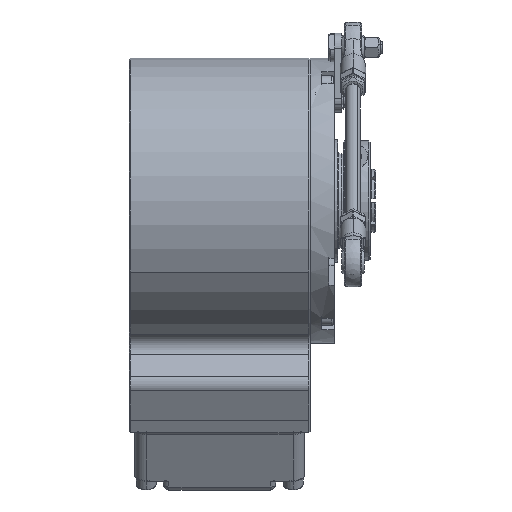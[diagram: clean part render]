
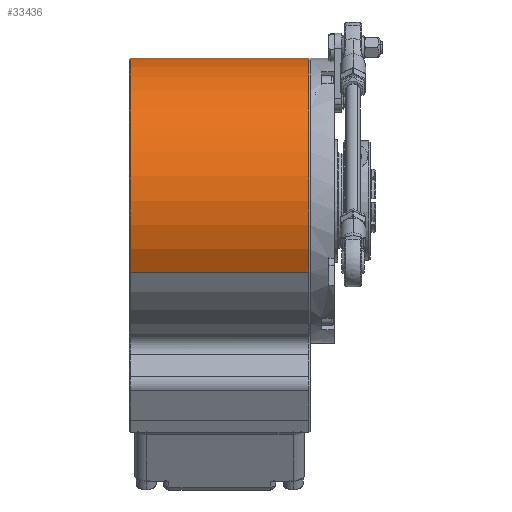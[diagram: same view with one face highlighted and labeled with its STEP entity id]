
A CAD part, left-side view. The second image highlights one B-rep face of the part: STEP entity #33436.
In plain terms, the highlighted cylindrical face has radius 50 mm (diameter 100 mm), a partial arc.
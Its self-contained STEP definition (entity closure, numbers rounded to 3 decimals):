
#2519 = AXIS2_PLACEMENT_3D ( 'NONE', #7204, #7205, #7206 ) ;
#2684 = AXIS2_PLACEMENT_3D ( 'NONE', #8034, #8035, #8036 ) ;
#3545 = AXIS2_PLACEMENT_3D ( 'NONE', #15501, #15499, #15495 ) ;
#4743 = CIRCLE ( 'NONE', #2519, 50. ) ;
#7204 = CARTESIAN_POINT ( 'NONE',  ( 0., 13., 0. ) ) ;
#7205 = DIRECTION ( 'NONE',  ( 0., 1., 0. ) ) ;
#7206 = DIRECTION ( 'NONE',  ( 0.866, 0., 0.5 ) ) ;
#8034 = CARTESIAN_POINT ( 'NONE',  ( 0., 75.5, 0. ) ) ;
#8035 = DIRECTION ( 'NONE',  ( 0., -1., 0. ) ) ;
#8036 = DIRECTION ( 'NONE',  ( -0.866, 0., -0.5 ) ) ;
#8775 = CIRCLE ( 'NONE', #2684, 50. ) ;
#8844 = LINE ( 'NONE', #9913, #8848 ) ;
#8848 = VECTOR ( 'NONE', #9914, 1000. ) ;
#8956 = LINE ( 'NONE', #10096, #8959 ) ;
#8959 = VECTOR ( 'NONE', #10097, 1000. ) ;
#9913 = CARTESIAN_POINT ( 'NONE',  ( -43.301, 62.5, -25. ) ) ;
#9914 = DIRECTION ( 'NONE',  ( 0., 1., 0. ) ) ;
#10096 = CARTESIAN_POINT ( 'NONE',  ( 43.301, 62.5, 25. ) ) ;
#10097 = DIRECTION ( 'NONE',  ( 0., 1., 0. ) ) ;
#13686 = CYLINDRICAL_SURFACE ( 'NONE', #3545, 50. ) ;
#13687 = FACE_OUTER_BOUND ( 'NONE', #28858, .T. ) ;
#15495 = DIRECTION ( 'NONE',  ( 0.866, 0., 0.5 ) ) ;
#15499 = DIRECTION ( 'NONE',  ( 0., 1., 0. ) ) ;
#15501 = CARTESIAN_POINT ( 'NONE',  ( 0., 62.5, 0. ) ) ;
#18929 = CARTESIAN_POINT ( 'NONE',  ( -43.301, 13., -25. ) ) ;
#19063 = CARTESIAN_POINT ( 'NONE',  ( 43.301, 13., 25. ) ) ;
#19064 = CARTESIAN_POINT ( 'NONE',  ( -43.301, 75.5, -25. ) ) ;
#19074 = CARTESIAN_POINT ( 'NONE',  ( 43.301, 75.5, 25. ) ) ;
#25276 = ORIENTED_EDGE ( 'NONE', *, *, #31814, .F. ) ;
#25277 = ORIENTED_EDGE ( 'NONE', *, *, #31452, .T. ) ;
#25278 = ORIENTED_EDGE ( 'NONE', *, *, #31886, .T. ) ;
#25279 = ORIENTED_EDGE ( 'NONE', *, *, #31773, .T. ) ;
#28858 = EDGE_LOOP ( 'NONE', ( #25276, #25277, #25278, #25279 ) ) ;
#31452 = EDGE_CURVE ( 'NONE', #34881, #35015, #4743, .T. ) ;
#31773 = EDGE_CURVE ( 'NONE', #35026, #35016, #8775, .T. ) ;
#31814 = EDGE_CURVE ( 'NONE', #34881, #35016, #8844, .T. ) ;
#31886 = EDGE_CURVE ( 'NONE', #35015, #35026, #8956, .T. ) ;
#33436 = ADVANCED_FACE ( 'NONE', ( #13687 ), #13686, .T. ) ;
#34881 = VERTEX_POINT ( 'NONE', #18929 ) ;
#35015 = VERTEX_POINT ( 'NONE', #19063 ) ;
#35016 = VERTEX_POINT ( 'NONE', #19064 ) ;
#35026 = VERTEX_POINT ( 'NONE', #19074 ) ;
